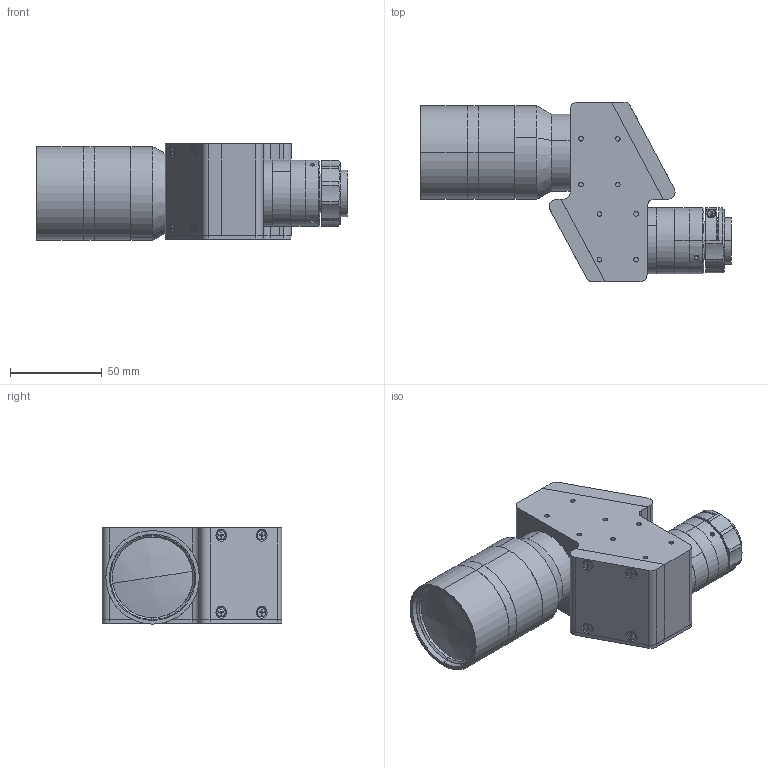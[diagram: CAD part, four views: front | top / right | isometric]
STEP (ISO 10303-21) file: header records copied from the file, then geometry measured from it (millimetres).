
FILE_DESCRIPTION (( 'STEP AP203' ), '1' );
FILE_NAME ('XF-MH02X1184.STEP', '2020-08-24T07:18:51', ( 'canrill-02' ), ( '' ), 'SwSTEP 2.0', 'SolidWorks 2014', '' );
FILE_SCHEMA (( 'CONFIG_CONTROL_DESIGN' ));
Length unit declared in the file: millimetre
Products named in the file (1): XF-MH02X1184
Bounding box: 169.58 x 98 x 52.5 mm (x, y, z)
Surface area: 51736.3 mm2 (no closed solid volume)
Topology: 0 solids, 33 shells, 418 faces, 1330 edges, 916 vertices
Faces by surface type: plane 207, cylinder 162, cone 45, sphere 2, torus 2
Entity records: 15009 total; most frequent: CARTESIAN_POINT 2996, DIRECTION 2618, ORIENTED_EDGE 2174, EDGE_CURVE 1328, VERTEX_POINT 916, AXIS2_PLACEMENT_3D 898, VECTOR 822, LINE 822
